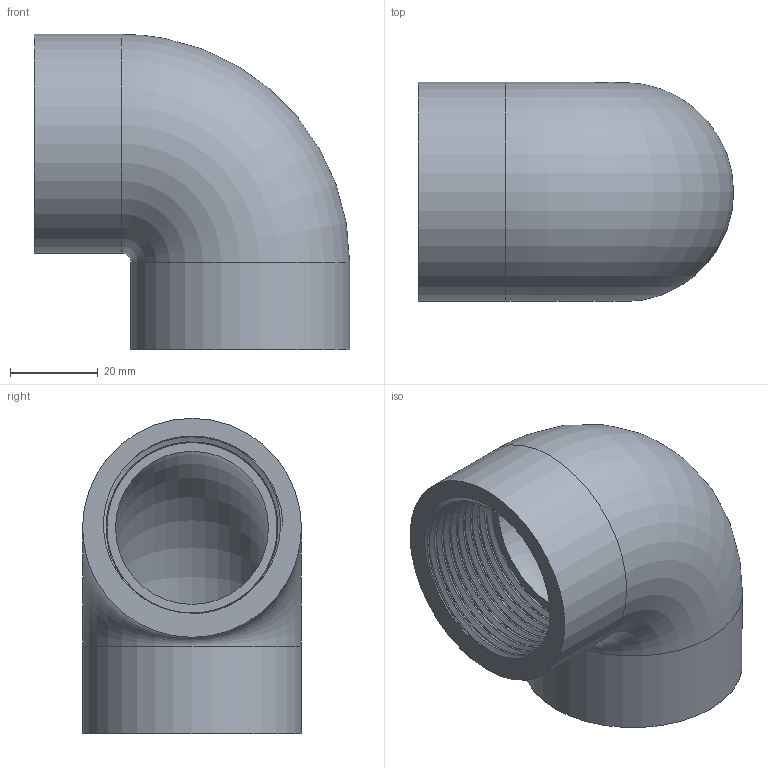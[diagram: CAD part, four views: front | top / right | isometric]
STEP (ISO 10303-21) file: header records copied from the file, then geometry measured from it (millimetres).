
FILE_DESCRIPTION(/* description */ ('PVC gomito a 90° filettato BSP femmina'),/* implementation_level */ '2;1');
FILE_NAME(/* name */ 'C:\Users\POLYPIPE\Desktop\DATASET INVENTOR\LIBRERIA EFFAST\RACCORDI 3DxWEB\RER\3D_RERGOE\3D_RERGOE040E.stp',/* time_stamp */ '2018-01-19T16:18:13+01:00',/* author */ ('POLYPIPE'),/* organization */ ('Polypipe Italia s.r.l.'),/* preprocessor_version */ 'ST-DEVELOPER v16.1',/* originating_system */ 'Autodesk Inventor 2016',/* authorisation */ '');
FILE_SCHEMA (('CONFIG_CONTROL_DESIGN'));
Length unit declared in the file: millimetre
Products named in the file (1): 3D_RERGOE
Bounding box: 72 x 50 x 72 mm (x, y, z)
Volume: 68365.1 mm3; surface area: 29439.6 mm2
Topology: 1 solids, 1 shells, 22 faces, 48 edges, 30 vertices
Faces by surface type: bspline 10, plane 6, cylinder 4, torus 2
Full cylindrical faces by diameter (mm): 50 x2
Entity records: 8034 total; most frequent: CARTESIAN_POINT 7599, ORIENTED_EDGE 92, DIRECTION 60, EDGE_CURVE 44, EDGE_LOOP 30, VERTEX_POINT 30, AXIS2_PLACEMENT_3D 27, B_SPLINE_CURVE_WITH_KNOTS 24
